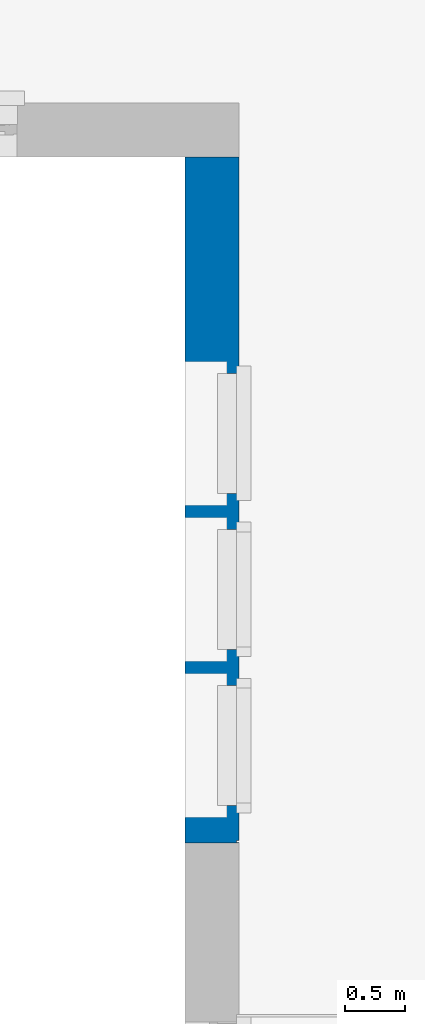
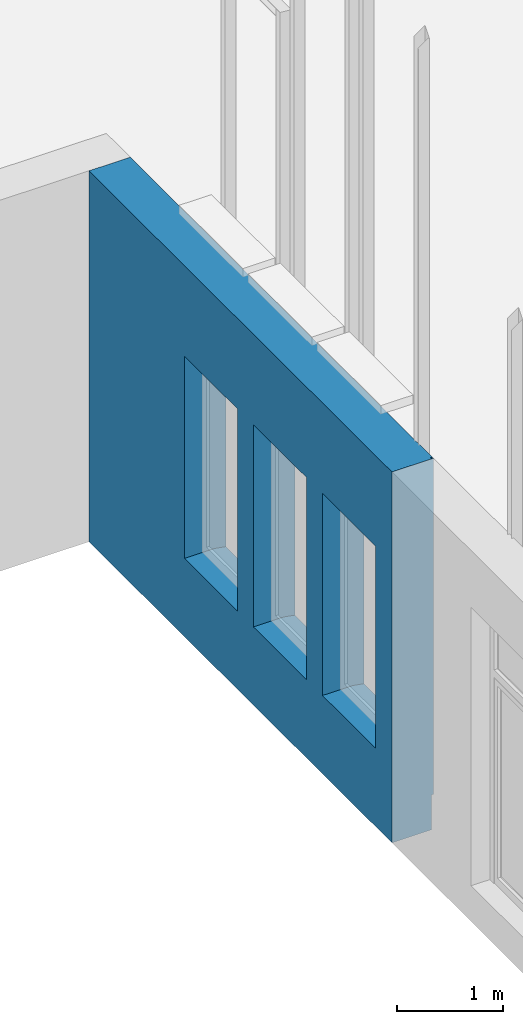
# One storey, part 33 of 77: 1 wall, 6 openings.
"""IFC2X3 building model written with IfcOpenShell, lengths in millimetres."""

from ifc_helpers import new_model, entity, si_unit, converted_unit, derived_unit, direction, frame, frame_2d, origin, place, context, subcontext, project, spatial, rectangle, extrude, faceted_brep, material, layer, layer_set, layer_usage, type_object, element, save


model = new_model("IFC2X3")

# Units and contexts
model_context = context("Model", 3, precision=0.01, world=origin(), true_north=direction((6.12303176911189e-17, 1.0)))
body_context = subcontext(model_context, "Body", "Model", "MODEL_VIEW")
ifc_project = project(units=[si_unit("LENGTHUNIT", "METRE", prefix="MILLI"), si_unit("AREAUNIT", "SQUARE_METRE"), si_unit("VOLUMEUNIT", "CUBIC_METRE"), converted_unit("PLANEANGLEUNIT", "DEGREE", entity("IfcRatioMeasure", 0.0174532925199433), si_unit("PLANEANGLEUNIT", "RADIAN"), dimensions=[0, 0, 0, 0, 0, 0, 0]), si_unit("MASSUNIT", "GRAM", prefix="KILO"), derived_unit("MASSDENSITYUNIT", [(si_unit("MASSUNIT", "GRAM", prefix="KILO"), 1), (si_unit("LENGTHUNIT", "METRE"), -3)]), si_unit("TIMEUNIT", "SECOND"), si_unit("FREQUENCYUNIT", "HERTZ"), si_unit("THERMODYNAMICTEMPERATUREUNIT", "DEGREE_CELSIUS"), derived_unit("THERMALTRANSMITTANCEUNIT", [(si_unit("MASSUNIT", "GRAM", prefix="KILO"), 1), (si_unit("THERMODYNAMICTEMPERATUREUNIT", "KELVIN"), -1), (si_unit("TIMEUNIT", "SECOND"), -3)]), derived_unit("VOLUMETRICFLOWRATEUNIT", [(si_unit("LENGTHUNIT", "METRE"), 3), (si_unit("TIMEUNIT", "SECOND"), -1)]), si_unit("ELECTRICCURRENTUNIT", "AMPERE"), si_unit("ELECTRICVOLTAGEUNIT", "VOLT"), si_unit("POWERUNIT", "WATT"), si_unit("FORCEUNIT", "NEWTON", prefix="KILO"), si_unit("ILLUMINANCEUNIT", "LUX"), si_unit("LUMINOUSFLUXUNIT", "LUMEN"), si_unit("LUMINOUSINTENSITYUNIT", "CANDELA"), derived_unit("USERDEFINED", [(si_unit("MASSUNIT", "GRAM", prefix="KILO"), -1), (si_unit("LENGTHUNIT", "METRE"), -2), (si_unit("TIMEUNIT", "SECOND"), 3), (si_unit("LUMINOUSFLUXUNIT", "LUMEN"), 1)]), derived_unit("LINEARVELOCITYUNIT", [(si_unit("LENGTHUNIT", "METRE"), 1), (si_unit("TIMEUNIT", "SECOND"), -1)]), si_unit("PRESSUREUNIT", "PASCAL"), derived_unit("USERDEFINED", [(si_unit("LENGTHUNIT", "METRE"), -2), (si_unit("MASSUNIT", "GRAM", prefix="KILO"), 1), (si_unit("TIMEUNIT", "SECOND"), -2)])], contexts=[model_context])

# Site, building, storey
site_placement = place(None, origin())
site = spatial("IfcSite", under=ifc_project, at=site_placement, Name="Default", CompositionType="ELEMENT")
building_placement = place(site_placement, origin())
building = spatial("IfcBuilding", under=site, at=building_placement, CompositionType="ELEMENT")
storey_placement = place(building_placement, origin())
storey = spatial("IfcBuildingStorey", under=building, at=storey_placement, Name="1. KORRUS", CompositionType="ELEMENT", Elevation=0.0)

# Wall, openings
ifc_material_1 = material(Name="RECKLI 1 173 THUR by Polantis 2016-toon1")
ifc_layer_1 = layer(ifc_material_1, 100.0)
ifc_material_2 = material(Name="Soojusisolatsioon EPS")
ifc_layer_2 = layer(ifc_material_2, 200.0)
ifc_material_3 = material(Name="r/b")
ifc_layer_3 = layer(ifc_material_3, 150.0)
ifc_layer_set = layer_set([ifc_layer_1, ifc_layer_2, ifc_layer_3], Name="Basic Wall:VS-1_toon-d")
ifc_layer_usage = layer_usage(ifc_layer_set, "AXIS2", "NEGATIVE", 225.0)
wall_type = type_object("IfcWallType", Name="Basic Wall:VS-1_toon-d", PredefinedType="STANDARD", material=ifc_layer_set)
wall_placement = place(storey_placement, frame((39725.0, 21500.0517807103, -400.0), z_axis=(0.0, 0.0, 1.0), x_axis=(0.0, -1.0, 0.0)))
wall = element("IfcWallStandardCase", 1, at=wall_placement, inside=storey, type_object=wall_type, material=ifc_layer_usage, Name="Basic Wall:VS-1_toon-d", ObjectType="Basic Wall:VS-1_toon-d", context=body_context, shape_type="SweptSolid", body=[
    extrude(rectangle(XDim=5710.05178071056, YDim=450.000000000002, at=frame_2d((2855.02589035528, 3.41060513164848e-13), x_axis=(-1.0, 0.0))), origin(), (0.0, 0.0, 1.0), 4265.0),
])
opening_1_placement = place(wall_placement, origin())
element("IfcOpeningElement", 2, at=opening_1_placement, cuts=wall, Name="Basic Wall:VS-1_toon-d", ObjectType="Opening", context=body_context, shape_type="Brep", body=[
    faceted_brep([(-6529.94821928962, -40155.0, 400.0), (-6529.94821928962, -40155.0, 0.0), (-6549.94821928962, -40175.0, 0.0), (-6549.94821928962, -40175.0, 400.0), (-1789.94821928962, -40155.0, 400.0), (-1789.94821928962, -40175.0, 400.0), (-1789.94821928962, -40175.0, 0.0), (-1789.94821928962, -40155.0, 0.0)], [[[0, 1, 2, 3]], [[4, 5, 6, 7]], [[1, 0, 4, 7]], [[2, 1, 7, 6]], [[3, 2, 6, 5]], [[0, 3, 5, 4]]]),
    faceted_brep([(-6529.94821928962, -40155.0, 400.0), (-6549.94821928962, -40175.0, 400.0), (-6549.94821928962, -40175.0, 0.0), (-6529.94821928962, -40155.0, 0.0), (-6529.94821928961, -35815.0, 400.0), (-6529.94821928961, -35815.0, 0.0), (-6549.94821928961, -35815.0, 0.0), (-6549.94821928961, -35815.0, 400.0)], [[[0, 1, 2, 3]], [[4, 5, 6, 7]], [[1, 0, 4, 7]], [[2, 1, 7, 6]], [[3, 2, 6, 5]], [[0, 3, 5, 4]]]),
    faceted_brep([(-6529.94821928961, -30095.0, 400.0), (-6549.94821928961, -30075.0, 400.0), (-6549.94821928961, -30075.0, 0.0), (-6529.94821928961, -30095.0, 0.0), (-430.0, -30095.0, 400.0), (-430.0, -30095.0, 0.0), (-450.0, -30075.0, 0.0), (-450.0, -30075.0, 400.0)], [[[0, 1, 2, 3]], [[4, 5, 6, 7]], [[1, 0, 4, 7]], [[2, 1, 7, 6]], [[3, 2, 6, 5]], [[0, 3, 5, 4]]]),
    faceted_brep([(-430.0, -25375.0, 400.0), (-450.0, -25375.0, 400.0), (-450.0, -25375.0, 0.0), (-430.0, -25375.0, 0.0), (-430.0, -24845.0, 400.0), (-430.0, -24845.0, 0.0), (-450.0, -24845.0, 0.0), (-450.0, -24845.0, 400.0)], [[[0, 1, 2, 3]], [[4, 5, 6, 7]], [[1, 0, 4, 7]], [[2, 1, 7, 6]], [[3, 2, 6, 5]], [[0, 3, 5, 4]]]),
    faceted_brep([(-430.0, 205.0, 400.0), (-450.0, 225.0, 400.0), (-450.0, 225.0, 0.0), (-430.0, 205.0, 0.0), (5710.05178071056, 205.0, 400.0), (5710.05178071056, 205.0, 0.0), (5710.05178071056, 225.0, 0.0), (5710.05178071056, 225.0, 400.0)], [[[0, 1, 2, 3]], [[4, 5, 6, 7]], [[1, 0, 4, 7]], [[2, 1, 7, 6]], [[3, 2, 6, 5]], [[0, 3, 5, 4]]]),
    faceted_brep([(21930.0517807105, 205.0, 400.0), (21950.0517807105, 225.0, 400.0), (21950.0517807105, 225.0, 0.0), (21930.0517807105, 205.0, 0.0), (21930.0517807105, -4925.0, 400.0), (21930.0517807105, -4925.0, 0.0), (21950.0517807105, -4925.0, 0.0), (21950.0517807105, -4925.0, 400.0)], [[[0, 1, 2, 3]], [[4, 5, 6, 7]], [[1, 0, 4, 7]], [[2, 1, 7, 6]], [[3, 2, 6, 5]], [[0, 3, 5, 4]]]),
    faceted_brep([(21930.0517807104, -28325.0, 400.0), (21950.0517807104, -28325.0, 400.0), (21950.0517807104, -28325.0, 0.0), (21930.0517807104, -28325.0, 0.0), (21930.0517807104, -32110.0, 400.0), (21930.0517807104, -32110.0, 0.0), (21950.0517807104, -32110.0, 0.0), (21950.0517807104, -32110.0, 400.0)], [[[0, 1, 2, 3]], [[4, 5, 6, 7]], [[1, 0, 4, 7]], [[2, 1, 7, 6]], [[3, 2, 6, 5]], [[0, 3, 5, 4]]]),
    faceted_brep([(8740.05178071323, 205.0, 400.0), (8740.05178071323, 225.0, 400.0), (8740.05178071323, 225.0, 0.0), (8740.05178071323, 205.0, 0.0), (12856.7217807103, 205.0, 400.0), (12856.7217807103, 205.0, 0.0), (12856.7217807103, 225.0, 0.0), (12856.7217807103, 225.0, 400.0)], [[[0, 1, 2, 3]], [[4, 5, 6, 7]], [[1, 0, 4, 7]], [[2, 1, 7, 6]], [[3, 2, 6, 5]], [[0, 3, 5, 4]]]),
    faceted_brep([(21930.0517807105, -8525.0, 400.0), (21950.0517807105, -8525.0, 400.0), (21950.0517807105, -8525.0, 0.0), (21930.0517807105, -8525.0, 0.0), (21930.0517807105, -10925.0, 400.0), (21930.0517807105, -10925.0, 0.0), (21950.0517807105, -10925.0, 0.0), (21950.0517807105, -10925.0, 400.0)], [[[0, 1, 2, 3]], [[4, 5, 6, 7]], [[1, 0, 4, 7]], [[2, 1, 7, 6]], [[3, 2, 6, 5]], [[0, 3, 5, 4]]]),
    faceted_brep([(21930.0517807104, -35934.969176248, 400.0), (21950.0517807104, -35934.969176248, 400.0), (21950.0517807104, -35934.969176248, 0.0), (21930.0517807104, -35934.969176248, 0.0), (21930.0517807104, -38419.969176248, 400.0), (21930.0517807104, -38419.969176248, 0.0), (21950.0517807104, -38419.969176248, 0.0), (21950.0517807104, -38419.969176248, 400.0)], [[[0, 1, 2, 3]], [[4, 5, 6, 7]], [[1, 0, 4, 7]], [[2, 1, 7, 6]], [[3, 2, 6, 5]], [[0, 3, 5, 4]]]),
    faceted_brep([(21930.0517807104, -23725.0, 400.0), (21950.0517807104, -23725.0, 400.0), (21950.0517807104, -23725.0, 0.0), (21930.0517807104, -23725.0, 0.0), (21930.0517807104, -24725.0, 400.0), (21930.0517807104, -24725.0, 0.0), (21950.0517807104, -24725.0, 0.0), (21950.0517807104, -24725.0, 400.0)], [[[0, 1, 2, 3]], [[4, 5, 6, 7]], [[1, 0, 4, 7]], [[2, 1, 7, 6]], [[3, 2, 6, 5]], [[0, 3, 5, 4]]]),
    faceted_brep([(21930.0517807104, -19124.9683370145, 400.0), (21950.0517807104, -19124.9683370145, 400.0), (21950.0517807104, -19124.9683370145, 0.0), (21930.0517807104, -19124.9683370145, 0.0), (21930.0517807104, -20125.0, 400.0), (21930.0517807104, -20125.0, 0.0), (21950.0517807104, -20125.0, 0.0), (21950.0517807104, -20125.0, 400.0)], [[[0, 1, 2, 3]], [[4, 5, 6, 7]], [[1, 0, 4, 7]], [[2, 1, 7, 6]], [[3, 2, 6, 5]], [[0, 3, 5, 4]]]),
    faceted_brep([(21930.0517807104, -14524.9683370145, 400.0), (21950.0517807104, -14524.9683370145, 400.0), (21950.0517807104, -14524.9683370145, 0.0), (21930.0517807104, -14524.9683370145, 0.0), (21930.0517807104, -15525.0, 400.0), (21930.0517807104, -15525.0, 0.0), (21950.0517807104, -15525.0, 0.0), (21950.0517807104, -15525.0, 400.0)], [[[0, 1, 2, 3]], [[4, 5, 6, 7]], [[1, 0, 4, 7]], [[2, 1, 7, 6]], [[3, 2, 6, 5]], [[0, 3, 5, 4]]]),
    faceted_brep([(17085.0517807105, 205.0, 400.0), (17085.0517807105, 225.0, 400.0), (17085.0517807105, 225.0, 0.0), (17085.0517807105, 205.0, 0.0), (21930.0517807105, 205.0, 400.0), (21930.0517807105, 205.0, 0.0), (21950.0517807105, 225.0, 0.0), (21950.0517807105, 225.0, 400.0)], [[[0, 1, 2, 3]], [[4, 5, 6, 7]], [[1, 0, 4, 7]], [[2, 1, 7, 6]], [[3, 2, 6, 5]], [[0, 3, 5, 4]]]),
    faceted_brep([(12856.7217807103, 205.0, 400.0), (12856.7217807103, 225.0, 400.0), (12856.7217807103, 225.0, 0.0), (12856.7217807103, 205.0, 0.0), (17085.0517807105, 205.0, 400.0), (17085.0517807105, 205.0, 0.0), (17085.0517807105, 225.0, 0.0), (17085.0517807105, 225.0, 400.0)], [[[0, 1, 2, 3]], [[4, 5, 6, 7]], [[1, 0, 4, 7]], [[2, 1, 7, 6]], [[3, 2, 6, 5]], [[0, 3, 5, 4]]]),
    faceted_brep([(5710.05178071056, 205.0, 400.0), (5710.05178071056, 225.0, 400.0), (5710.05178071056, 225.0, 0.0), (5710.05178071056, 205.0, 0.0), (8740.05178071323, 205.0, 400.0), (8740.05178071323, 205.0, 0.0), (8740.05178071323, 225.0, 0.0), (8740.05178071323, 225.0, 400.0)], [[[0, 1, 2, 3]], [[4, 5, 6, 7]], [[1, 0, 4, 7]], [[2, 1, 7, 6]], [[3, 2, 6, 5]], [[0, 3, 5, 4]]]),
    faceted_brep([(-430.0, -5754.89642978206, 400.0), (-450.0, -5754.89642978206, 400.0), (-450.0, -5754.89642978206, 0.0), (-430.0, -5754.89642978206, 0.0), (-430.0, 205.0, 400.0), (-430.0, 205.0, 0.0), (-450.0, 225.0, 0.0), (-450.0, 225.0, 400.0)], [[[0, 1, 2, 3]], [[4, 5, 6, 7]], [[1, 0, 4, 7]], [[2, 1, 7, 6]], [[3, 2, 6, 5]], [[0, 3, 5, 4]]]),
    faceted_brep([(-430.0, -11061.7838512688, 400.0), (-450.0, -11061.7838512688, 400.0), (-450.0, -11061.7838512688, 0.0), (-430.0, -11061.7838512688, 0.0), (-430.0, -5754.89642978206, 400.0), (-430.0, -5754.89642978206, 0.0), (-450.0, -5754.89642978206, 0.0), (-450.0, -5754.89642978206, 400.0)], [[[0, 1, 2, 3]], [[4, 5, 6, 7]], [[1, 0, 4, 7]], [[2, 1, 7, 6]], [[3, 2, 6, 5]], [[0, 3, 5, 4]]]),
    faceted_brep([(21930.0517807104, -32110.0, 400.0), (21950.0517807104, -32110.0, 400.0), (21950.0517807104, -32110.0, 0.0), (21930.0517807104, -32110.0, 0.0), (21930.0517807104, -35934.969176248, 400.0), (21930.0517807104, -35934.969176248, 0.0), (21950.0517807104, -35934.969176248, 0.0), (21950.0517807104, -35934.969176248, 400.0)], [[[0, 1, 2, 3]], [[4, 5, 6, 7]], [[1, 0, 4, 7]], [[2, 1, 7, 6]], [[3, 2, 6, 5]], [[0, 3, 5, 4]]]),
    faceted_brep([(-430.0, -17640.0, 400.0), (-450.0, -17640.0, 400.0), (-450.0, -17640.0, 0.0), (-430.0, -17640.0, 0.0), (-430.0, -11061.7838512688, 400.0), (-430.0, -11061.7838512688, 0.0), (-450.0, -11061.7838512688, 0.0), (-450.0, -11061.7838512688, 400.0)], [[[0, 1, 2, 3]], [[4, 5, 6, 7]], [[1, 0, 4, 7]], [[2, 1, 7, 6]], [[3, 2, 6, 5]], [[0, 3, 5, 4]]]),
    faceted_brep([(-430.0, -21471.6471089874, 400.0), (-450.0, -21471.6471089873, 400.0), (-450.0, -21471.6471089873, 0.0), (-430.0, -21471.6471089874, 0.0), (-430.0, -17640.0, 400.0), (-430.0, -17640.0, 0.0), (-450.0, -17640.0, 0.0), (-450.0, -17640.0, 400.0)], [[[0, 1, 2, 3]], [[4, 5, 6, 7]], [[1, 0, 4, 7]], [[2, 1, 7, 6]], [[3, 2, 6, 5]], [[0, 3, 5, 4]]]),
    faceted_brep([(-430.0, -24845.0, 400.0), (-450.0, -24845.0, 400.0), (-450.0, -24845.0, 0.0), (-430.0, -24845.0, 0.0), (-430.0, -21471.6471089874, 400.0), (-430.0, -21471.6471089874, 0.0), (-450.0, -21471.6471089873, 0.0), (-450.0, -21471.6471089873, 400.0)], [[[0, 1, 2, 3]], [[4, 5, 6, 7]], [[1, 0, 4, 7]], [[2, 1, 7, 6]], [[3, 2, 6, 5]], [[0, 3, 5, 4]]]),
    faceted_brep([(-6529.94821928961, -35815.0, 400.0), (-6549.94821928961, -35815.0, 400.0), (-6549.94821928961, -35815.0, 0.0), (-6529.94821928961, -35815.0, 0.0), (-6529.94821928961, -30095.0, 400.0), (-6529.94821928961, -30095.0, 0.0), (-6549.94821928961, -30075.0, 0.0), (-6549.94821928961, -30075.0, 400.0)], [[[0, 1, 2, 3]], [[4, 5, 6, 7]], [[1, 0, 4, 7]], [[2, 1, 7, 6]], [[3, 2, 6, 5]], [[0, 3, 5, 4]]]),
    faceted_brep([(-1789.94821928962, -40155.0, 400.0), (-1789.94821928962, -40155.0, 0.0), (-1789.94821928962, -40175.0, 0.0), (-1789.94821928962, -40175.0, 400.0), (3760.051083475, -40155.0, 400.0), (3760.051083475, -40175.0, 400.0), (3760.051083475, -40175.0, 0.0), (3760.051083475, -40155.0, 0.0)], [[[0, 1, 2, 3]], [[4, 5, 6, 7]], [[1, 0, 4, 7]], [[2, 1, 7, 6]], [[3, 2, 6, 5]], [[0, 3, 5, 4]]]),
    faceted_brep([(3760.051083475, -40155.0, 400.0), (3760.051083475, -40155.0, 0.0), (3760.051083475, -40175.0, 0.0), (3760.051083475, -40175.0, 400.0), (8700.05178071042, -40155.0, 400.0), (8700.05178071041, -40175.0, 400.0), (8700.05178071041, -40175.0, 0.0), (8700.05178071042, -40155.0, 0.0)], [[[0, 1, 2, 3]], [[4, 5, 6, 7]], [[1, 0, 4, 7]], [[2, 1, 7, 6]], [[3, 2, 6, 5]], [[0, 3, 5, 4]]]),
    faceted_brep([(-430.0, -30095.0, 400.0), (-450.0, -30075.0, 400.0), (-450.0, -30075.0, 0.0), (-430.0, -30095.0, 0.0), (-430.0, -28975.0, 400.0), (-430.0, -28975.0, 0.0), (-450.0, -28975.0, 0.0), (-450.0, -28975.0, 400.0)], [[[0, 1, 2, 3]], [[4, 5, 6, 7]], [[1, 0, 4, 7]], [[2, 1, 7, 6]], [[3, 2, 6, 5]], [[0, 3, 5, 4]]]),
])
opening_2_placement = place(wall_placement, origin())
element("IfcOpeningElement", 3, at=opening_2_placement, cuts=wall, Name="Basic Wall:VS-1_toon-d", ObjectType="Recess", context=body_context, shape_type="SweptSolid", body=[
    extrude(rectangle(XDim=4265.0, YDim=16.0000000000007, at=frame_2d((0.0, 2.16626716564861e-12), x_axis=(1.0, 0.0))), frame((5698.05060347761, 205.0, 2132.5), z_axis=(0.0, 1.0, 0.0), x_axis=(0.0, 0.0, 1.0)), (0.0, 0.0, 1.0), 20.0000000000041),
    extrude(rectangle(XDim=4835.0, YDim=16.0000000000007, at=frame_2d((4.54747350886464e-13, 2.16626716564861e-12), x_axis=(1.0, 0.0))), frame((5698.05060347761, 205.0, 6682.5), z_axis=(0.0, 1.0, 0.0), x_axis=(0.0, 0.0, 1.0)), (0.0, 0.0, 1.0), 20.0000000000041),
])
opening_3_placement = place(wall_placement, origin())
element("IfcOpeningElement", 4, at=opening_3_placement, cuts=wall, Name="Basic Wall:VS-1_toon-d", ObjectType="Recess", context=body_context, shape_type="SweptSolid", body=[
    extrude(rectangle(XDim=834.999999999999, YDim=16.0000000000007, at=frame_2d((0.0, -2.16626716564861e-12), x_axis=(1.0, 0.0))), frame((-341.948219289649, 205.0, 8682.5), z_axis=(0.0, 1.0, 0.0), x_axis=(0.0, 0.0, 1.0)), (0.0, 0.0, 1.0), 20.0000000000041),
])
opening_4_placement = place(wall_placement, frame((2800.05178071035, -225.0, 878.057009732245), z_axis=(0.0, 0.0, 1.0), x_axis=(0.0, 1.0, 0.0)))
element("IfcOpeningElement", 5, at=opening_4_placement, cuts=wall, Name="Basic Wall:VS-1_toon-d", ObjectType="Opening", context=body_context, shape_type="Brep", body=[
    faceted_brep([(0.0, 1000.0, 2346.94299026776), (0.0, 1000.0, 21.9429902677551), (0.0, 0.0, 21.9429902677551), (0.0, 0.0, 2346.94299026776), (450.0, 0.0, 2721.94299026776), (450.0, 0.0, 0.0), (450.0, 1000.0, 0.0), (450.0, 1000.0, 2721.94299026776), (250.0, 1000.0, 2346.94299026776), (250.0, 1000.0, 2721.94299026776), (325.555118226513, 1000.0, 21.9429902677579), (325.555118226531, 0.0, 21.9429902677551), (250.0, 0.0, 2721.94299026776), (250.0, 0.0, 2346.94299026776)], [[[0, 1, 2, 3]], [[4, 5, 6, 7]], [[0, 8, 9, 7, 6, 10, 1]], [[1, 10, 11, 2]], [[2, 11, 5, 4, 12, 13, 3]], [[3, 13, 8, 0]], [[9, 8, 13, 12]], [[12, 4, 7, 9]], [[6, 5, 11, 10]]]),
])
opening_5_placement = place(wall_placement, frame((4100.05178071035, -225.0, 878.057009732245), z_axis=(0.0, 0.0, 1.0), x_axis=(0.0, 1.0, 0.0)))
element("IfcOpeningElement", 6, at=opening_5_placement, cuts=wall, Name="Basic Wall:VS-1_toon-d", ObjectType="Opening", context=body_context, shape_type="Brep", body=[
    faceted_brep([(0.0, 1000.0, 2346.94299026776), (0.0, 1000.0, 21.9429902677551), (0.0, 0.0, 21.9429902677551), (0.0, 0.0, 2346.94299026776), (450.0, 0.0, 2721.94299026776), (450.0, 0.0, 0.0), (450.0, 1000.0, 0.0), (450.0, 1000.0, 2721.94299026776), (250.0, 1000.0, 2346.94299026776), (250.0, 1000.0, 2721.94299026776), (325.555118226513, 1000.0, 21.9429902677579), (325.555118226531, 0.0, 21.9429902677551), (250.0, 0.0, 2721.94299026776), (250.0, 0.0, 2346.94299026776)], [[[0, 1, 2, 3]], [[4, 5, 6, 7]], [[0, 8, 9, 7, 6, 10, 1]], [[1, 10, 11, 2]], [[2, 11, 5, 4, 12, 13, 3]], [[3, 13, 8, 0]], [[9, 8, 13, 12]], [[12, 4, 7, 9]], [[6, 5, 11, 10]]]),
])
opening_6_placement = place(wall_placement, frame((5400.05178071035, -225.0, 878.057009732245), z_axis=(0.0, 0.0, 1.0), x_axis=(0.0, 1.0, 0.0)))
element("IfcOpeningElement", 7, at=opening_6_placement, cuts=wall, Name="Basic Wall:VS-1_toon-d", ObjectType="Opening", context=body_context, shape_type="Brep", body=[
    faceted_brep([(0.0, 1000.0, 2346.94299026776), (0.0, 1000.0, 21.9429902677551), (0.0, 0.0, 21.9429902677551), (0.0, 0.0, 2346.94299026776), (450.0, 0.0, 2721.94299026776), (450.0, 0.0, 0.0), (450.0, 1000.0, 0.0), (450.0, 1000.0, 2721.94299026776), (250.0, 1000.0, 2346.94299026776), (250.0, 1000.0, 2721.94299026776), (325.555118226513, 1000.0, 21.9429902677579), (325.555118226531, 0.0, 21.9429902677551), (250.0, 0.0, 2721.94299026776), (250.0, 0.0, 2346.94299026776)], [[[0, 1, 2, 3]], [[4, 5, 6, 7]], [[0, 8, 9, 7, 6, 10, 1]], [[1, 10, 11, 2]], [[2, 11, 5, 4, 12, 13, 3]], [[3, 13, 8, 0]], [[9, 8, 13, 12]], [[12, 4, 7, 9]], [[6, 5, 11, 10]]]),
])

save(model, "model.ifc")
